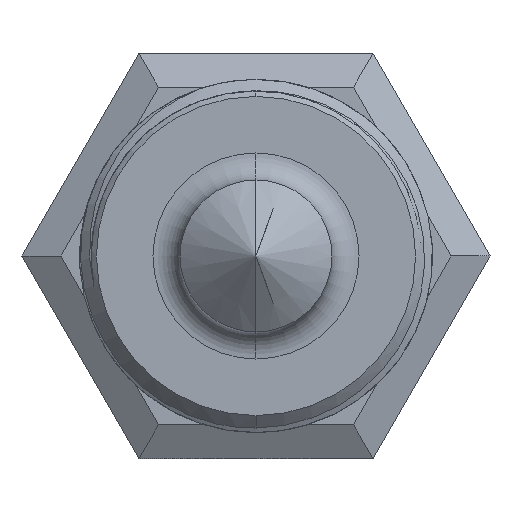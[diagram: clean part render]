
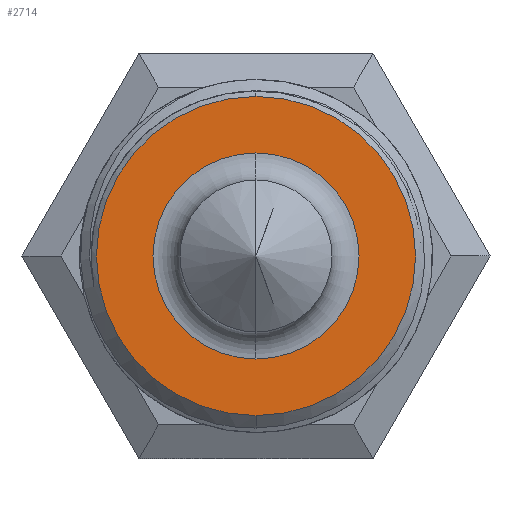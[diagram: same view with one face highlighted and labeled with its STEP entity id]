
A CAD part, front view. The second image highlights one B-rep face of the part: STEP entity #2714.
In plain terms, the highlighted planar face has unit normal (0, -1, 0).
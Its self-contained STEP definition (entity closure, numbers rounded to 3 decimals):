
#85 = AXIS2_PLACEMENT_3D ( 'NONE', #1044, #1959, #5422 ) ;
#309 = ORIENTED_EDGE ( 'NONE', *, *, #3725, .T. ) ;
#485 = VERTEX_POINT ( 'NONE', #1444 ) ;
#541 = CIRCLE ( 'NONE', #4538, 6.1 ) ;
#568 = EDGE_CURVE ( 'NONE', #485, #3773, #2169, .T. ) ;
#675 = EDGE_CURVE ( 'NONE', #3352, #4677, #541, .T. ) ;
#949 = EDGE_CURVE ( 'NONE', #3773, #485, #4738, .T. ) ;
#1044 = CARTESIAN_POINT ( 'NONE',  ( 0., -15.6, 0. ) ) ;
#1173 = DIRECTION ( 'NONE',  ( 0., 0., -1. ) ) ;
#1316 = CARTESIAN_POINT ( 'NONE',  ( 0., -15.6, 0. ) ) ;
#1444 = CARTESIAN_POINT ( 'NONE',  ( 0., -15.6, 9.45 ) ) ;
#1526 = DIRECTION ( 'NONE',  ( 0., 0., -1. ) ) ;
#1756 = DIRECTION ( 'NONE',  ( 0., 1., 0. ) ) ;
#1959 = DIRECTION ( 'NONE',  ( 0., -1., 0. ) ) ;
#2169 = CIRCLE ( 'NONE', #5764, 9.45 ) ;
#2186 = CIRCLE ( 'NONE', #4632, 6.1 ) ;
#2215 = DIRECTION ( 'NONE',  ( 0., 0., -1. ) ) ;
#2328 = DIRECTION ( 'NONE',  ( 0., 0., -1. ) ) ;
#2714 = ADVANCED_FACE ( 'NONE', ( #4476, #5975 ), #5942, .T. ) ;
#3298 = CARTESIAN_POINT ( 'NONE',  ( 0., -15.6, 0. ) ) ;
#3352 = VERTEX_POINT ( 'NONE', #4526 ) ;
#3404 = DIRECTION ( 'NONE',  ( 0., -1., 0. ) ) ;
#3550 = ORIENTED_EDGE ( 'NONE', *, *, #568, .T. ) ;
#3725 = EDGE_CURVE ( 'NONE', #4677, #3352, #2186, .T. ) ;
#3773 = VERTEX_POINT ( 'NONE', #5276 ) ;
#3931 = AXIS2_PLACEMENT_3D ( 'NONE', #6324, #3404, #1526 ) ;
#4305 = DIRECTION ( 'NONE',  ( 0., 1., 0. ) ) ;
#4476 = FACE_BOUND ( 'NONE', #5750, .T. ) ;
#4518 = DIRECTION ( 'NONE',  ( 0., -1., 0. ) ) ;
#4526 = CARTESIAN_POINT ( 'NONE',  ( 0., -15.6, 6.1 ) ) ;
#4538 = AXIS2_PLACEMENT_3D ( 'NONE', #1316, #4305, #2328 ) ;
#4632 = AXIS2_PLACEMENT_3D ( 'NONE', #3298, #1756, #2215 ) ;
#4677 = VERTEX_POINT ( 'NONE', #5053 ) ;
#4738 = CIRCLE ( 'NONE', #3931, 9.45 ) ;
#5053 = CARTESIAN_POINT ( 'NONE',  ( 0., -15.6, -6.1 ) ) ;
#5135 = CARTESIAN_POINT ( 'NONE',  ( 0., -15.6, 0. ) ) ;
#5276 = CARTESIAN_POINT ( 'NONE',  ( 0., -15.6, -9.45 ) ) ;
#5422 = DIRECTION ( 'NONE',  ( 0., 0., -1. ) ) ;
#5750 = EDGE_LOOP ( 'NONE', ( #309, #5808 ) ) ;
#5764 = AXIS2_PLACEMENT_3D ( 'NONE', #5135, #4518, #1173 ) ;
#5808 = ORIENTED_EDGE ( 'NONE', *, *, #675, .T. ) ;
#5895 = ORIENTED_EDGE ( 'NONE', *, *, #949, .T. ) ;
#5942 = PLANE ( 'NONE',  #85 ) ;
#5975 = FACE_OUTER_BOUND ( 'NONE', #6192, .T. ) ;
#6192 = EDGE_LOOP ( 'NONE', ( #3550, #5895 ) ) ;
#6324 = CARTESIAN_POINT ( 'NONE',  ( 0., -15.6, 0. ) ) ;
